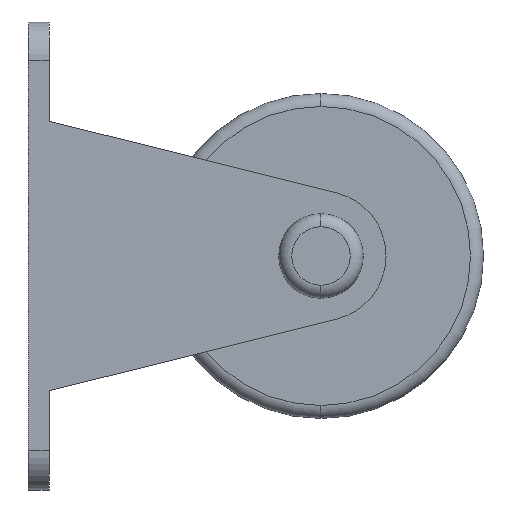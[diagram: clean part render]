
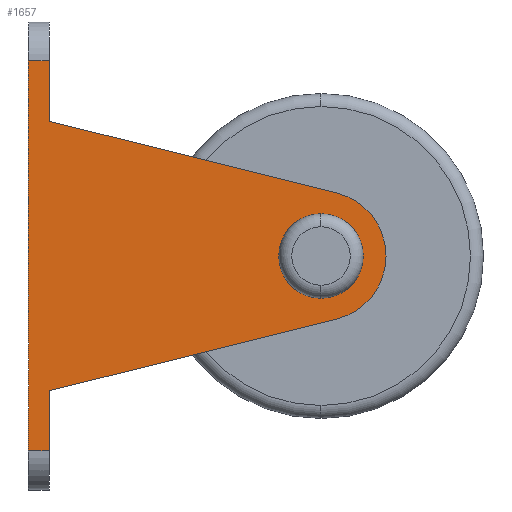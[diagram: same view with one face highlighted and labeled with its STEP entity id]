
A CAD part, left-side view. The second image highlights one B-rep face of the part: STEP entity #1657.
In plain terms, the highlighted planar face has unit normal (-1, 0, 0).
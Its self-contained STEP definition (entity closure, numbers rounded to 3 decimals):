
#13 = EDGE_LOOP ( 'NONE', ( #1236, #1342 ) ) ;
#28 = CARTESIAN_POINT ( 'NONE',  ( -9., -1.6, -10.364 ) ) ;
#46 = CARTESIAN_POINT ( 'NONE',  ( -9., -22.5, 0. ) ) ;
#88 = VERTEX_POINT ( 'NONE', #1253 ) ;
#90 = CARTESIAN_POINT ( 'NONE',  ( -9., -1.6, -10.364 ) ) ;
#149 = LINE ( 'NONE', #1164, #994 ) ;
#159 = PLANE ( 'NONE',  #728 ) ;
#172 = VECTOR ( 'NONE', #1442, 1000. ) ;
#207 = ORIENTED_EDGE ( 'NONE', *, *, #750, .F. ) ;
#260 = LINE ( 'NONE', #641, #481 ) ;
#267 = CARTESIAN_POINT ( 'NONE',  ( -9., -1.6, -27.34 ) ) ;
#274 = DIRECTION ( 'NONE',  ( 0., 0.97, 0.242 ) ) ;
#291 = ORIENTED_EDGE ( 'NONE', *, *, #1647, .F. ) ;
#294 = VERTEX_POINT ( 'NONE', #1445 ) ;
#309 = EDGE_CURVE ( 'NONE', #88, #409, #149, .T. ) ;
#315 = DIRECTION ( 'NONE',  ( 1., 0., 0. ) ) ;
#356 = CARTESIAN_POINT ( 'NONE',  ( -9., -23.71, 4.851 ) ) ;
#405 = EDGE_CURVE ( 'NONE', #1528, #1098, #1399, .T. ) ;
#409 = VERTEX_POINT ( 'NONE', #638 ) ;
#417 = CARTESIAN_POINT ( 'NONE',  ( -9., -22.5, 0. ) ) ;
#426 = EDGE_CURVE ( 'NONE', #1536, #659, #1289, .T. ) ;
#439 = EDGE_CURVE ( 'NONE', #1536, #1594, #1171, .T. ) ;
#481 = VECTOR ( 'NONE', #1039, 1000. ) ;
#544 = LINE ( 'NONE', #267, #1384 ) ;
#549 = CARTESIAN_POINT ( 'NONE',  ( -9., -23.71, -4.851 ) ) ;
#554 = CARTESIAN_POINT ( 'NONE',  ( -9., -22.5, 2.1 ) ) ;
#627 = ORIENTED_EDGE ( 'NONE', *, *, #439, .F. ) ;
#633 = AXIS2_PLACEMENT_3D ( 'NONE', #1468, #315, #818 ) ;
#638 = CARTESIAN_POINT ( 'NONE',  ( -9., 0., 15. ) ) ;
#641 = CARTESIAN_POINT ( 'NONE',  ( -9., -1.6, 27.34 ) ) ;
#647 = DIRECTION ( 'NONE',  ( 0., 0., -1. ) ) ;
#655 = CARTESIAN_POINT ( 'NONE',  ( -9., -27.5, 15. ) ) ;
#659 = VERTEX_POINT ( 'NONE', #356 ) ;
#665 = DIRECTION ( 'NONE',  ( 0., 0., -1. ) ) ;
#667 = DIRECTION ( 'NONE',  ( 0., 0.97, -0.242 ) ) ;
#678 = ORIENTED_EDGE ( 'NONE', *, *, #426, .T. ) ;
#698 = CARTESIAN_POINT ( 'NONE',  ( -9., -1.6, 10.364 ) ) ;
#715 = ORIENTED_EDGE ( 'NONE', *, *, #1473, .F. ) ;
#725 = VECTOR ( 'NONE', #274, 1000. ) ;
#728 = AXIS2_PLACEMENT_3D ( 'NONE', #655, #905, #1588 ) ;
#747 = EDGE_CURVE ( 'NONE', #1098, #1528, #1631, .T. ) ;
#750 = EDGE_CURVE ( 'NONE', #294, #1560, #803, .T. ) ;
#777 = DIRECTION ( 'NONE',  ( -1., 0., 0. ) ) ;
#781 = CARTESIAN_POINT ( 'NONE',  ( -9., -1.6, 10.364 ) ) ;
#783 = DIRECTION ( 'NONE',  ( 1., 0., 0. ) ) ;
#803 = LINE ( 'NONE', #1326, #172 ) ;
#809 = ORIENTED_EDGE ( 'NONE', *, *, #309, .T. ) ;
#818 = DIRECTION ( 'NONE',  ( 0., 0., -1. ) ) ;
#901 = CARTESIAN_POINT ( 'NONE',  ( -9., -22.5, -2.1 ) ) ;
#905 = DIRECTION ( 'NONE',  ( -1., 0., 0. ) ) ;
#932 = LINE ( 'NONE', #781, #725 ) ;
#964 = LINE ( 'NONE', #1074, #1382 ) ;
#994 = VECTOR ( 'NONE', #1301, 1000. ) ;
#1006 = EDGE_CURVE ( 'NONE', #659, #1239, #932, .T. ) ;
#1039 = DIRECTION ( 'NONE',  ( 0., 0., 1. ) ) ;
#1074 = CARTESIAN_POINT ( 'NONE',  ( -9., 0., 15. ) ) ;
#1098 = VERTEX_POINT ( 'NONE', #554 ) ;
#1122 = EDGE_CURVE ( 'NONE', #1239, #88, #260, .T. ) ;
#1128 = ORIENTED_EDGE ( 'NONE', *, *, #1006, .T. ) ;
#1164 = CARTESIAN_POINT ( 'NONE',  ( -9., -27.5, 15. ) ) ;
#1171 = LINE ( 'NONE', #28, #1218 ) ;
#1218 = VECTOR ( 'NONE', #667, 1000. ) ;
#1234 = ORIENTED_EDGE ( 'NONE', *, *, #1122, .T. ) ;
#1236 = ORIENTED_EDGE ( 'NONE', *, *, #405, .T. ) ;
#1239 = VERTEX_POINT ( 'NONE', #698 ) ;
#1253 = CARTESIAN_POINT ( 'NONE',  ( -9., -1.6, 15. ) ) ;
#1289 = CIRCLE ( 'NONE', #1600, 5. ) ;
#1301 = DIRECTION ( 'NONE',  ( 0., 1., 0. ) ) ;
#1326 = CARTESIAN_POINT ( 'NONE',  ( -9., -27.5, -15. ) ) ;
#1342 = ORIENTED_EDGE ( 'NONE', *, *, #747, .T. ) ;
#1382 = VECTOR ( 'NONE', #1481, 1000. ) ;
#1384 = VECTOR ( 'NONE', #665, 1000. ) ;
#1399 = CIRCLE ( 'NONE', #633, 2.1 ) ;
#1434 = FACE_OUTER_BOUND ( 'NONE', #1497, .T. ) ;
#1442 = DIRECTION ( 'NONE',  ( 0., 1., 0. ) ) ;
#1445 = CARTESIAN_POINT ( 'NONE',  ( -9., -1.6, -15. ) ) ;
#1451 = DIRECTION ( 'NONE',  ( 0., 0., -1. ) ) ;
#1459 = CARTESIAN_POINT ( 'NONE',  ( -9., 0., -15. ) ) ;
#1466 = FACE_BOUND ( 'NONE', #13, .T. ) ;
#1468 = CARTESIAN_POINT ( 'NONE',  ( -9., -22.5, 0. ) ) ;
#1473 = EDGE_CURVE ( 'NONE', #1560, #409, #964, .T. ) ;
#1481 = DIRECTION ( 'NONE',  ( 0., 0., 1. ) ) ;
#1497 = EDGE_LOOP ( 'NONE', ( #627, #678, #1128, #1234, #809, #715, #207, #291 ) ) ;
#1528 = VERTEX_POINT ( 'NONE', #901 ) ;
#1536 = VERTEX_POINT ( 'NONE', #549 ) ;
#1560 = VERTEX_POINT ( 'NONE', #1459 ) ;
#1588 = DIRECTION ( 'NONE',  ( 0., 0., 1. ) ) ;
#1594 = VERTEX_POINT ( 'NONE', #90 ) ;
#1600 = AXIS2_PLACEMENT_3D ( 'NONE', #46, #777, #647 ) ;
#1603 = AXIS2_PLACEMENT_3D ( 'NONE', #417, #783, #1451 ) ;
#1631 = CIRCLE ( 'NONE', #1603, 2.1 ) ;
#1647 = EDGE_CURVE ( 'NONE', #1594, #294, #544, .T. ) ;
#1657 = ADVANCED_FACE ( 'NONE', ( #1466, #1434 ), #159, .T. ) ;
